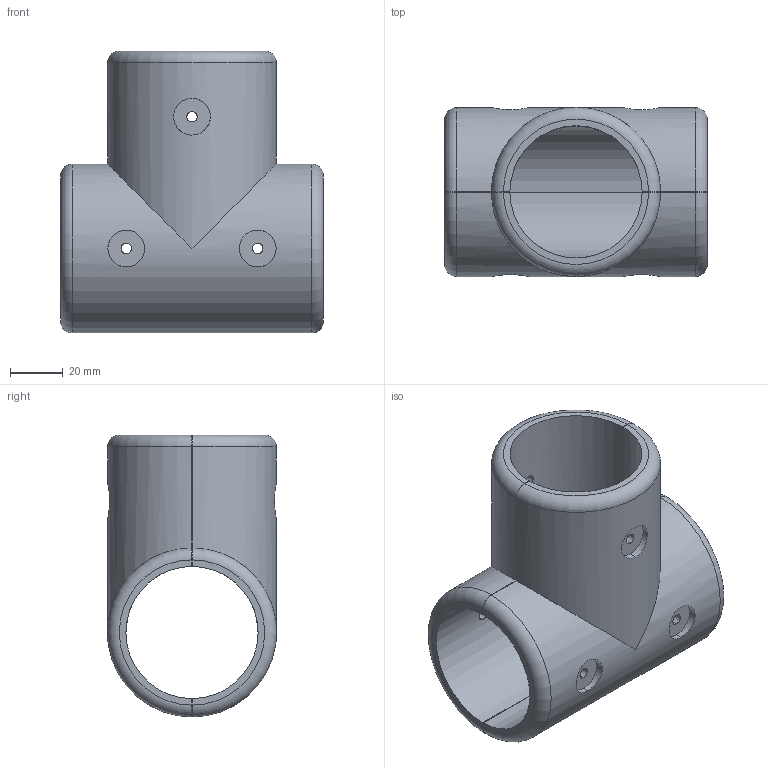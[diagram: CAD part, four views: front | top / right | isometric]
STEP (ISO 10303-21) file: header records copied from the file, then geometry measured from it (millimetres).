
FILE_DESCRIPTION (( 'STEP AP214' ), '1' );
FILE_NAME ('KIE_018.A12 Trójnik.STEP', '2025-01-22T18:52:20', ( '' ), ( '' ), 'SwSTEP 2.0', 'SolidWorks 2023', '' );
FILE_SCHEMA (( 'AUTOMOTIVE_DESIGN' ));
Length unit declared in the file: millimetre
Products named in the file (1): KIE_018.A12 Trójnik
Bounding box: 100 x 64.3 x 107.3 mm (x, y, z)
Volume: 168740.6 mm3; surface area: 56298.5 mm2
Topology: 2 solids, 2 shells, 69 faces, 295 edges, 249 vertices
Faces by surface type: cylinder 45, plane 18, torus 6
Entity records: 6536 total; most frequent: CARTESIAN_POINT 4289, ORIENTED_EDGE 590, EDGE_CURVE 295, DIRECTION 280, VERTEX_POINT 249, B_SPLINE_CURVE_WITH_KNOTS 189, AXIS2_PLACEMENT_3D 112, EDGE_LOOP 100
